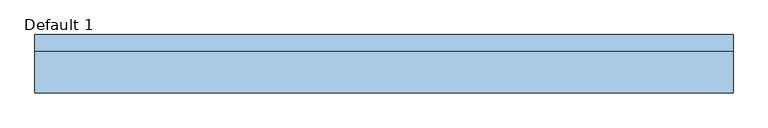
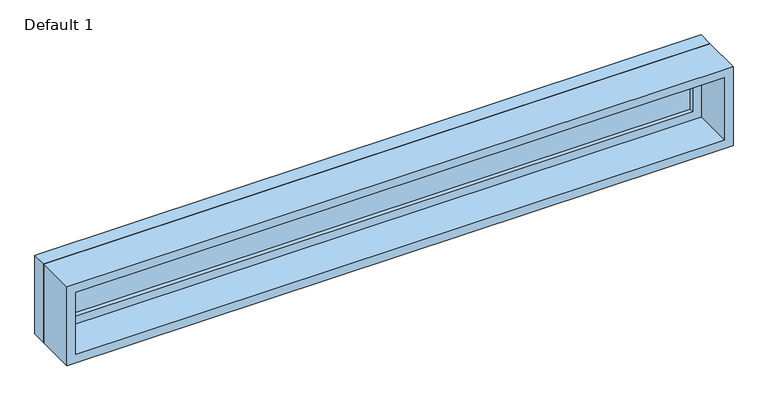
"""IFC4 building model written with IfcOpenShell, lengths in millimetres: window geometry, Planitar-Fixed : Default 1."""

from ifc_helpers import new_model, si_unit, frame, origin, place, context, project, spatial, polyline, outline, extrude, source, transform, mapped, element, save


def default_1_ae7297e2(model_context):
    return source(origin(), model_context, "Body", "SweptSolid", [
        extrude(outline(polyline([(1200.2, -1200.2), (933.4, -1200.2), (933.4, 1200.2), (1200.2, 1200.2), (1200.2, -1200.2)]), holes=[polyline([(1156.2, -1156.2), (1156.2, 1156.2), (977.4, 1156.2), (977.4, -1156.2), (1156.2, -1156.2)])]), frame((0.0, 57.9, 0.0), z_axis=(0.0, 1.0, 0.0), x_axis=(0.0, 0.0, 1.0)), (0.0, 0.0, 1.0), 44.0),
        extrude(outline(polyline([(1219.2, -1219.2), (914.4, -1219.2), (914.4, 1219.2), (1219.2, 1219.2), (1219.2, -1219.2)]), holes=[polyline([(1200.2, -1200.2), (1200.2, 1200.2), (933.4, 1200.2), (933.4, -1200.2), (1200.2, -1200.2)])]), frame((0.0, 57.9, 0.0), z_axis=(0.0, 1.0, 0.0), x_axis=(0.0, 0.0, 1.0)), (0.0, 0.0, 1.0), 56.7),
        extrude(outline(polyline([(1219.2, -1219.2), (914.4, -1219.2), (914.4, 1219.2), (1219.2, 1219.2), (1219.2, -1219.2)]), holes=[polyline([(1187.2, -1187.2), (1187.2, 1187.2), (946.4, 1187.2), (946.4, -1187.2), (1187.2, -1187.2)])]), frame((0.0, -88.6, 0.0), z_axis=(0.0, 1.0, 0.0), x_axis=(0.0, 0.0, 1.0)), (0.0, 0.0, 1.0), 146.5),
        extrude(outline(polyline([(-1156.2, 85.9), (1156.2, 85.9), (1156.2, 73.9), (-1156.2, 73.9), (-1156.2, 85.9)])), frame((0.0, 0.0, 977.4), z_axis=(0.0, 0.0, 1.0), x_axis=(1.0, 0.0, 0.0)), (0.0, 0.0, 1.0), 178.8),
    ])


if __name__ == "__main__":
    model = new_model("IFC4")
    model_context = context("Model", 3, world=origin())
    ifc_project = project(units=[si_unit("LENGTHUNIT", "METRE", prefix="MILLI")], contexts=[model_context])
    site = spatial("IfcSite", under=ifc_project)
    building = spatial("IfcBuilding", under=site)
    placement = place(None, origin())
    default_1_shape = default_1_ae7297e2(model_context)
    element("IfcWindow", 1, ObjectType="Planitar-Fixed : Default 1", at=placement, inside=building, context=model_context, shape_type="MappedRepresentation", body=[
        mapped(default_1_shape, transform((0.0, 0.0, 0.0), x_axis=(1.0, 0.0, 0.0), y_axis=(0.0, 1.0, 0.0), z_axis=(0.0, 0.0, 1.0))),
    ])
    save(model, "model.ifc")
